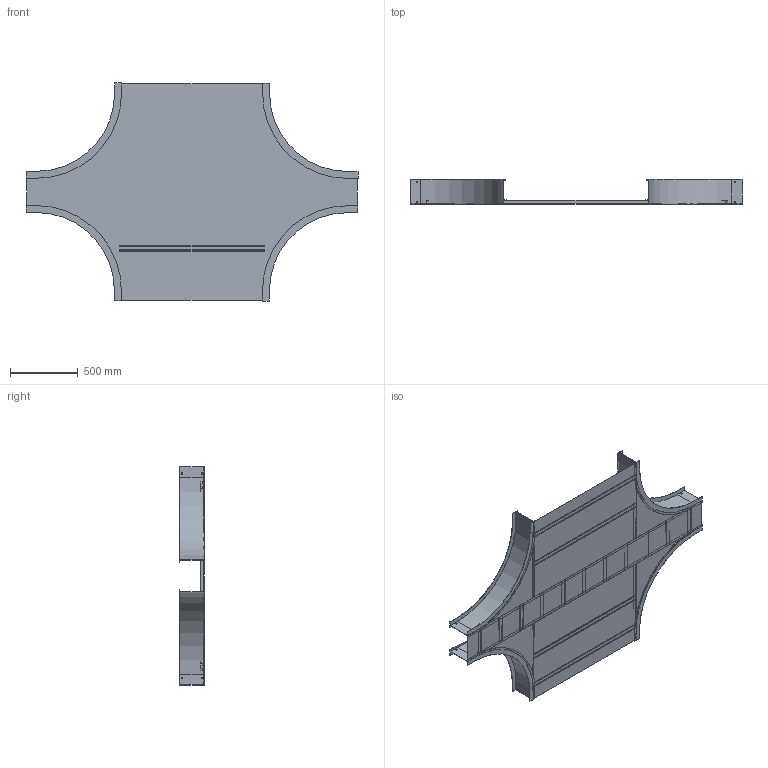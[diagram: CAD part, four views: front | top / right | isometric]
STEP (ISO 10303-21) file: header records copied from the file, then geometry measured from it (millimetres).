
FILE_DESCRIPTION((''),'2;1');
FILE_NAME('AHF70942SEX24_ASM','2010-02-01T',('erouzier'),(''),'PRO/ENGINEER BY PARAMETRIC TECHNOLOGY CORPORATION, 2008510','PRO/ENGINEER BY PARAMETRIC TECHNOLOGY CORPORATION, 2008510','');
FILE_SCHEMA(('CONFIG_CONTROL_DESIGN'));
Length unit declared in the file: inch
Products named in the file (21): CDS001813-7-90-24-I; CDS002159L9_AF11; CDS002159L9_AF12; CDS002159L9_AF13; CDS002159L9_AF14; CDS002159L9_AF20; CDS002159L9_AF15; CDS002159L9_AF16; CDS002159L9_AF17; CDS002159L9_AF19; CDS002159L9_AF21; CDS002159L9_AF18; CDS000495_GEN_AF18; CDS000495_GEN_AF19; CDS000495_GEN_AF22; CDS000495_GEN_AF23; CDS000495_GEN_AF20; CDS000495_GEN_AF21; CDS002159L42; CDS014308-9-24-42; AHF70942SEX24_ASM
Assembly tree (26 placements, depth 2):
  AHF70942SEX24_ASM
    CDS001813-7-90-24-I  x4
    CDS002159L9_AF11
    CDS002159L9_AF12
    CDS002159L9_AF13
    CDS002159L9_AF14
    CDS002159L9_AF20
    CDS002159L9_AF15
    CDS002159L9_AF16
    CDS002159L9_AF17
    CDS002159L9_AF19
    CDS002159L9_AF21
    CDS002159L9_AF18
    CDS000495_GEN_AF18
    CDS000495_GEN_AF19
    CDS000495_GEN_AF22
    CDS000495_GEN_AF23
    CDS000495_GEN_AF20
    CDS000495_GEN_AF21
    CDS002159L42  x4
    CDS014308-9-24-42
Bounding box: 2443.99 x 183.9 x 1605.79 mm (x, y, z)
Volume: 7643999.6 mm3; surface area: 9667226.2 mm2
Topology: 26 solids, 26 shells, 696 faces, 1932 edges, 1288 vertices
Faces by surface type: plane 503, cylinder 193
Entity records: 15771 total; most frequent: CARTESIAN_POINT 2727, DIRECTION 2658, ORIENTED_EDGE 2640, EDGE_CURVE 1320, VECTOR 1036, LINE 1036, VERTEX_POINT 880, AXIS2_PLACEMENT_3D 811
